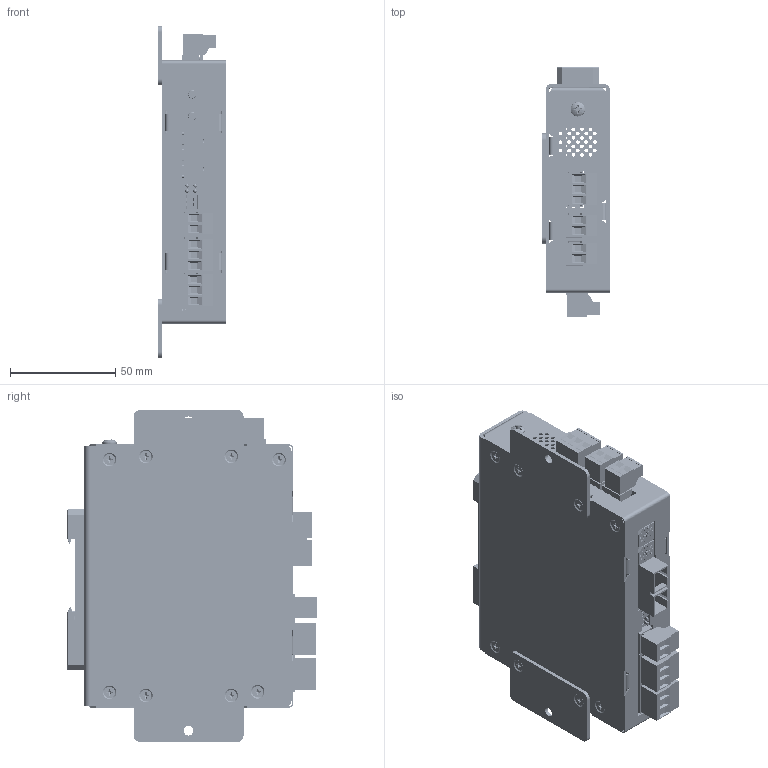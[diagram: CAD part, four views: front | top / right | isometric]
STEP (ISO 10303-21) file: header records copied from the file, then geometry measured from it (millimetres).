
FILE_DESCRIPTION(/* description */ ('STEP AP242','CAx-IF Rec.Pracs.---Representation and Presentation of Product Manufacturing Information (PMI)---4.0---2014-10-13','CAx-IF Rec.Pracs.---3D Tessellated Geometry---0.4---2014-09-14','2;1'),/* implementation_level */ '2;1');
FILE_NAME(/* name */ '618da0b3846b426cb8294702',/* time_stamp */ '2021-11-11T23:01:13+00:00',/* author */ (''),/* organization */ (''),/* preprocessor_version */ 'ST-DEVELOPER v18.1',/* originating_system */ ' ',/* authorisation */ ' ');
FILE_SCHEMA (('AP242_MANAGED_MODEL_BASED_3D_ENGINEERING_MIM_LF { 1 0 10303 442 1 1 4 }'));
Products named in the file (37): SDD-XX-2-Wall - Rev E; 96640A334_Black-Oxide 18-8 Stainless Steel Phillips Flat Head Screws; SMTSO-440-8ET-PennEngineering-3D-09-30-2021; 91772A144_Passivated 18-8 Stainless Steel Pan Head Phillips Screw; 96640A115_Black-Oxide 18-8 Stainless Steel Phillips Flat Head Screws; Part 1; DINM12-RC-Assy <1>; Spring clip; spring^DINM12-RC-Assy; DINM12-RC; H-126 - Serial Data DIN Front Cover - Rev E <1>; PRODUCT_NAME_1; PCB-SDD-XX-2 <1>; C-796634-2; C-796634-3; C-796638-2; BPA02_SW0001_PRT; _S-2011A_body; id159; id164; id169; _Without knob-Dial; C-796638-3; H-105 Rear Housing <1>; 95185A130_Zinc-Plated Steel Press-Fit Nut for Sheet Metal
Assembly tree (78 placements, depth 3):
  SDD-XX-2-Wall - Rev E
    96640A334_Black-Oxide 18-8 Stainless Steel Phillips Flat Head Screws  x14
    SMTSO-440-8ET-PennEngineering-3D-09-30-2021  x4
    91772A144_Passivated 18-8 Stainless Steel Pan Head Phillips Screw
    96640A115_Black-Oxide 18-8 Stainless Steel Phillips Flat Head Screws  x3
    Part 1  x2
    DINM12-RC-Assy <1>
      Spring clip
      spring^DINM12-RC-Assy
      spring^DINM12-RC-Assy
      DINM12-RC
    H-126 - Serial Data DIN Front Cover - Rev E <1>
      Part 1
      PRODUCT_NAME_1  x10
      PRODUCT_NAME_1
    PCB-SDD-XX-2 <1>
      C-796634-2  x3
      C-796634-3  x3
      C-796638-2  x3
      BPA02_SW0001_PRT
      _S-2011A_body  x2
      id159
      id164
      id169
      Part 1  x4
      _Without knob-Dial  x2
      C-796638-3  x3
      id159
      id164
      id169
      BPA02_SW0001_PRT
      BPA02_SW0001_PRT
      Part 1
    H-105 Rear Housing <1>
      Part 1
      95185A130_Zinc-Plated Steel Press-Fit Nut for Sheet Metal  x3
  Part 1
Bounding box: 32.1 x 118.56 x 157.99 mm (x, y, z)
Volume: 103513.4 mm3; surface area: 138856.2 mm2
Topology: 74 solids, 75 shells, 5504 faces, 15654 edges, 10636 vertices
Faces by surface type: plane 3832, cylinder 1348, cone 228, bspline 50, torus 33, sphere 13
Full cylindrical faces by diameter (mm): 0.45 x9, 1.3 x4, 1.8 x4, 1.905 x147, 2.156 x14, 2.647 x1, 2.845 x112, 3.251 x18, 3.505 x24, 4 x20, 4.089 x4, 4.191 x10, 4.216 x14, 4.572 x2, 4.724 x1, 4.75 x1, 4.763 x3, 4.826 x3, 4.889 x10, 5.41 x8, 5.563 x13, 5.588 x10, 6.401 x1, 6.858 x1, 7.112 x3, 7.5 x1, 7.62 x8, 9 x2
Entity records: 115036 total; most frequent: CARTESIAN_POINT 26292, ORIENTED_EDGE 16600, DIRECTION 16070, EDGE_CURVE 8302, LINE 5992, VECTOR 5992, VERTEX_POINT 5679, AXIS2_PLACEMENT_3D 5039
